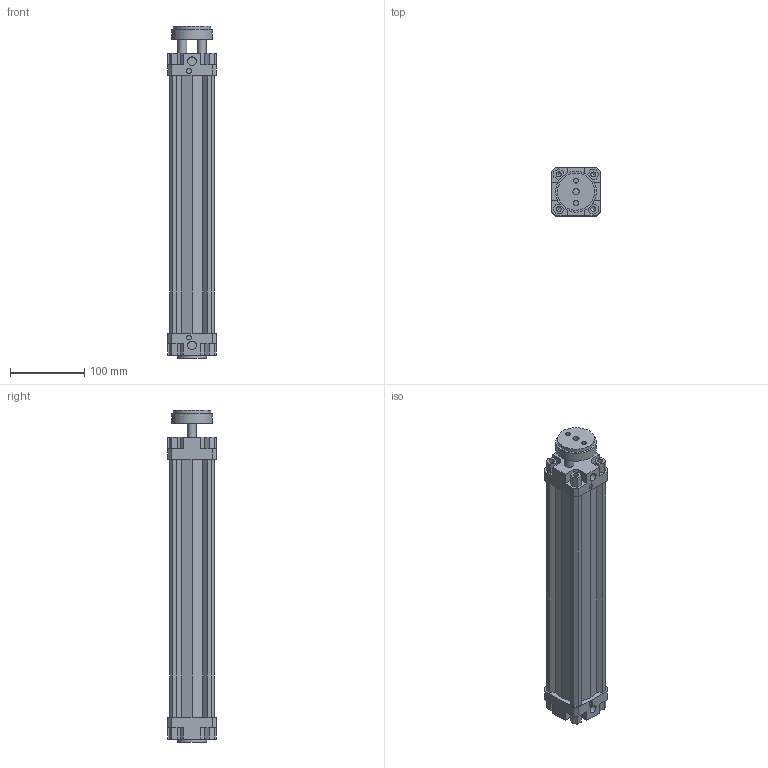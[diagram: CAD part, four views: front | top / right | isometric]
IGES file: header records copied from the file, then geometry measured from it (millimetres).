
Global section: file name: 132#_050_0300_01; native system: Autodesk Inventor 2014; preprocessor: unknown; author: A. Manieri; date: 20161006.155802; units: millimetre
Bounding box: 65 x 65 x 447 mm (x, y, z)
Volume: 795913.5 mm3; surface area: 230344.8 mm2
Topology: 2 solids, 2 shells, 180 faces, 492 edges, 336 vertices
Faces by surface type: bspline 180
